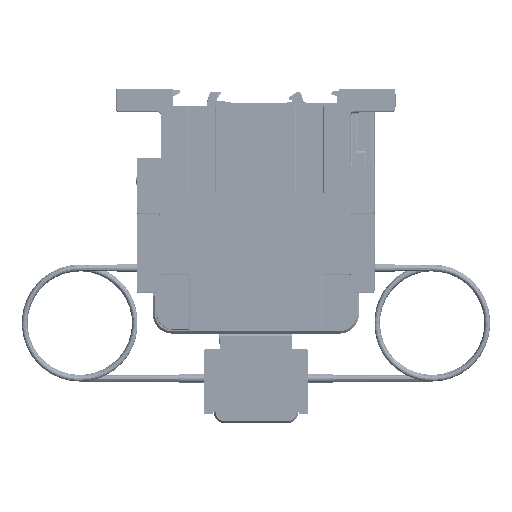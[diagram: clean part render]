
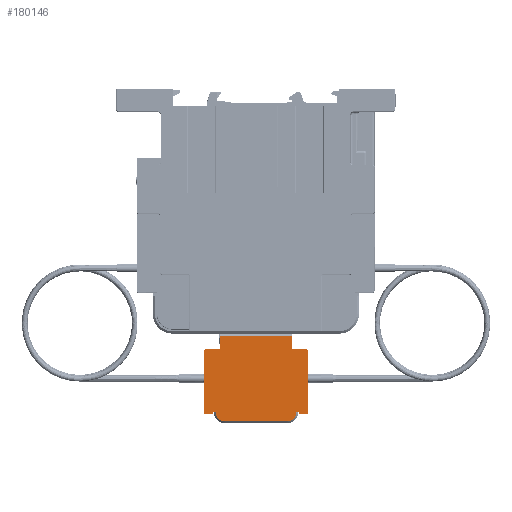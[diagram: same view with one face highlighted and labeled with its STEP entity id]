
A CAD part, left-side view. The second image highlights one B-rep face of the part: STEP entity #180146.
In plain terms, the highlighted planar face has unit normal (-1, 0, 0).
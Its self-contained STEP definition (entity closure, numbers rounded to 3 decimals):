
#558=DIRECTION('',(0.,-1.,0.));
#559=VECTOR('',#558,1.1);
#560=CARTESIAN_POINT('',(20.4,44.65,-146.5));
#561=LINE('',#560,#559);
#562=CARTESIAN_POINT('',(20.4,49.1,-146.5));
#563=DIRECTION('',(-1.,0.,0.));
#564=DIRECTION('',(0.,0.,-1.));
#565=AXIS2_PLACEMENT_3D('',#562,#563,#564);
#567=DIRECTION('',(0.,-1.,0.));
#568=VECTOR('',#567,27.9);
#569=CARTESIAN_POINT('',(20.4,77.,-150.95));
#570=LINE('',#569,#568);
#571=CARTESIAN_POINT('',(20.4,77.,-146.5));
#572=DIRECTION('',(-1.,0.,0.));
#573=DIRECTION('',(0.,1.,0.));
#574=AXIS2_PLACEMENT_3D('',#571,#572,#573);
#576=DIRECTION('',(0.,-1.,0.));
#577=VECTOR('',#576,1.1);
#578=CARTESIAN_POINT('',(20.4,82.55,-146.5));
#579=LINE('',#578,#577);
#580=DIRECTION('',(0.,0.,1.));
#581=VECTOR('',#580,0.3);
#582=CARTESIAN_POINT('',(20.4,82.55,-146.8));
#583=LINE('',#582,#581);
#584=CARTESIAN_POINT('',(20.4,83.55,-146.8));
#585=DIRECTION('',(-1.,0.,0.));
#586=DIRECTION('',(0.,0.,-1.));
#587=AXIS2_PLACEMENT_3D('',#584,#585,#586);
#589=CARTESIAN_POINT('',(20.4,85.85,-146.8));
#590=DIRECTION('',(-1.,0.,0.));
#591=DIRECTION('',(0.,1.,0.));
#592=AXIS2_PLACEMENT_3D('',#589,#590,#591);
#594=CARTESIAN_POINT('',(20.4,85.85,-119.2));
#595=DIRECTION('',(-1.,0.,0.));
#596=DIRECTION('',(0.,0.,1.));
#597=AXIS2_PLACEMENT_3D('',#594,#595,#596);
#599=DIRECTION('',(0.,1.,0.));
#600=VECTOR('',#599,5.6);
#601=CARTESIAN_POINT('',(20.4,80.25,-118.2));
#602=LINE('',#601,#600);
#603=DIRECTION('',(0.,0.,-1.));
#604=VECTOR('',#603,5.);
#605=CARTESIAN_POINT('',(20.4,79.25,-112.2));
#606=LINE('',#605,#604);
#607=DIRECTION('',(0.,-1.,0.));
#608=VECTOR('',#607,32.4);
#609=CARTESIAN_POINT('',(20.4,79.25,-112.2));
#610=LINE('',#609,#608);
#611=DIRECTION('',(0.,0.,-1.));
#612=VECTOR('',#611,5.);
#613=CARTESIAN_POINT('',(20.4,46.85,-112.2));
#614=LINE('',#613,#612);
#615=DIRECTION('',(0.,1.,0.));
#616=VECTOR('',#615,5.6);
#617=CARTESIAN_POINT('',(20.4,40.25,-118.2));
#618=LINE('',#617,#616);
#619=CARTESIAN_POINT('',(20.4,40.25,-119.2));
#620=DIRECTION('',(-1.,0.,0.));
#621=DIRECTION('',(0.,-1.,0.));
#622=AXIS2_PLACEMENT_3D('',#619,#620,#621);
#624=DIRECTION('',(0.,0.,-1.));
#625=VECTOR('',#624,27.6);
#626=CARTESIAN_POINT('',(20.4,39.25,-119.2));
#627=LINE('',#626,#625);
#628=CARTESIAN_POINT('',(20.4,40.25,-146.8));
#629=DIRECTION('',(-1.,0.,0.));
#630=DIRECTION('',(0.,0.,-1.));
#631=AXIS2_PLACEMENT_3D('',#628,#629,#630);
#633=CARTESIAN_POINT('',(20.4,42.55,-146.8));
#634=DIRECTION('',(-1.,0.,0.));
#635=DIRECTION('',(0.,1.,0.));
#636=AXIS2_PLACEMENT_3D('',#633,#634,#635);
#638=DIRECTION('',(0.,0.,1.));
#639=VECTOR('',#638,0.3);
#640=CARTESIAN_POINT('',(20.4,43.55,-146.8));
#641=LINE('',#640,#639);
#712=DIRECTION('',(0.,1.,0.));
#713=VECTOR('',#712,2.3);
#714=CARTESIAN_POINT('',(20.4,40.25,-147.8));
#715=LINE('',#714,#713);
#792=CARTESIAN_POINT('',(20.4,45.85,-117.2));
#793=DIRECTION('',(1.,0.,0.));
#794=DIRECTION('',(0.,0.,-1.));
#795=AXIS2_PLACEMENT_3D('',#792,#793,#794);
#49318=CARTESIAN_POINT('',(20.4,80.25,-117.2));
#49319=DIRECTION('',(1.,0.,0.));
#49320=DIRECTION('',(0.,-1.,0.));
#49321=AXIS2_PLACEMENT_3D('',#49318,#49319,#49320);
#49345=DIRECTION('',(0.,0.,-1.));
#49346=VECTOR('',#49345,27.6);
#49347=CARTESIAN_POINT('',(20.4,86.85,-119.2));
#49348=LINE('',#49347,#49346);
#98319=DIRECTION('',(0.,1.,0.));
#98320=VECTOR('',#98319,2.3);
#98321=CARTESIAN_POINT('',(20.4,83.55,-147.8));
#98322=LINE('',#98321,#98320);
#168251=CARTESIAN_POINT('',(20.4,43.55,-146.5));
#168253=VERTEX_POINT('',#168251);
#168254=CARTESIAN_POINT('',(20.4,82.55,-146.5));
#168256=VERTEX_POINT('',#168254);
#169144=CARTESIAN_POINT('',(20.4,39.25,-119.2));
#169145=CARTESIAN_POINT('',(20.4,40.25,-118.2));
#169146=VERTEX_POINT('',#169144);
#169147=VERTEX_POINT('',#169145);
#169216=CARTESIAN_POINT('',(20.4,85.85,-118.2));
#169218=VERTEX_POINT('',#169216);
#169220=CARTESIAN_POINT('',(20.4,86.85,-119.2));
#169221=VERTEX_POINT('',#169220);
#169228=CARTESIAN_POINT('',(20.4,86.85,-146.8));
#169229=VERTEX_POINT('',#169228);
#169230=CARTESIAN_POINT('',(20.4,85.85,-147.8));
#169231=VERTEX_POINT('',#169230);
#169296=CARTESIAN_POINT('',(20.4,40.25,-147.8));
#169297=CARTESIAN_POINT('',(20.4,39.25,-146.8));
#169298=VERTEX_POINT('',#169296);
#169299=VERTEX_POINT('',#169297);
#169866=CARTESIAN_POINT('',(20.4,46.85,-112.2));
#169868=VERTEX_POINT('',#169866);
#169869=CARTESIAN_POINT('',(20.4,79.25,-112.2));
#169870=VERTEX_POINT('',#169869);
#169889=CARTESIAN_POINT('',(20.4,45.85,-118.2));
#169891=VERTEX_POINT('',#169889);
#169893=CARTESIAN_POINT('',(20.4,46.85,-117.2));
#169895=VERTEX_POINT('',#169893);
#169906=CARTESIAN_POINT('',(20.4,80.25,-118.2));
#169908=VERTEX_POINT('',#169906);
#169910=CARTESIAN_POINT('',(20.4,79.25,-117.2));
#169912=VERTEX_POINT('',#169910);
#169977=CARTESIAN_POINT('',(20.4,83.55,-147.8));
#169978=CARTESIAN_POINT('',(20.4,82.55,-146.8));
#169979=VERTEX_POINT('',#169977);
#169980=VERTEX_POINT('',#169978);
#169989=CARTESIAN_POINT('',(20.4,43.55,-146.8));
#169990=VERTEX_POINT('',#169989);
#169991=CARTESIAN_POINT('',(20.4,42.55,-147.8));
#169992=VERTEX_POINT('',#169991);
#179208=CARTESIAN_POINT('',(20.4,77.,-150.95));
#179209=CARTESIAN_POINT('',(20.4,49.1,-150.95));
#179210=VERTEX_POINT('',#179208);
#179211=VERTEX_POINT('',#179209);
#179604=CARTESIAN_POINT('',(20.4,44.65,-146.5));
#179605=VERTEX_POINT('',#179604);
#179606=CARTESIAN_POINT('',(20.4,81.45,-146.5));
#179607=VERTEX_POINT('',#179606);
#180092=CARTESIAN_POINT('',(20.4,39.25,-111.4));
#180093=DIRECTION('',(-1.,0.,0.));
#180094=DIRECTION('',(0.,1.,0.));
#180095=AXIS2_PLACEMENT_3D('',#180092,#180093,#180094);
#180096=PLANE('',#180095);
#180098=ORIENTED_EDGE('',*,*,#180097,.F.);
#180100=ORIENTED_EDGE('',*,*,#180099,.F.);
#180101=ORIENTED_EDGE('',*,*,#180082,.F.);
#180103=ORIENTED_EDGE('',*,*,#180102,.F.);
#180105=ORIENTED_EDGE('',*,*,#180104,.F.);
#180107=ORIENTED_EDGE('',*,*,#180106,.F.);
#180109=ORIENTED_EDGE('',*,*,#180108,.F.);
#180111=ORIENTED_EDGE('',*,*,#180110,.T.);
#180113=ORIENTED_EDGE('',*,*,#180112,.F.);
#180115=ORIENTED_EDGE('',*,*,#180114,.F.);
#180117=ORIENTED_EDGE('',*,*,#180116,.F.);
#180119=ORIENTED_EDGE('',*,*,#180118,.F.);
#180121=ORIENTED_EDGE('',*,*,#180120,.F.);
#180123=ORIENTED_EDGE('',*,*,#180122,.F.);
#180125=ORIENTED_EDGE('',*,*,#180124,.T.);
#180127=ORIENTED_EDGE('',*,*,#180126,.T.);
#180129=ORIENTED_EDGE('',*,*,#180128,.F.);
#180131=ORIENTED_EDGE('',*,*,#180130,.F.);
#180133=ORIENTED_EDGE('',*,*,#180132,.F.);
#180135=ORIENTED_EDGE('',*,*,#180134,.T.);
#180137=ORIENTED_EDGE('',*,*,#180136,.F.);
#180139=ORIENTED_EDGE('',*,*,#180138,.T.);
#180141=ORIENTED_EDGE('',*,*,#180140,.F.);
#180143=ORIENTED_EDGE('',*,*,#180142,.T.);
#180144=EDGE_LOOP('',(#180098,#180100,#180101,#180103,#180105,#180107,#180109,
#180111,#180113,#180115,#180117,#180119,#180121,#180123,#180125,#180127,#180129,
#180131,#180133,#180135,#180137,#180139,#180141,#180143));
#180145=FACE_OUTER_BOUND('',#180144,.F.);
#180146=ADVANCED_FACE('',(#180145),#180096,.T.);
#566=CIRCLE('',#565,4.45);
#575=CIRCLE('',#574,4.45);
#588=CIRCLE('',#587,1.);
#593=CIRCLE('',#592,1.);
#598=CIRCLE('',#597,1.);
#623=CIRCLE('',#622,1.);
#632=CIRCLE('',#631,1.);
#637=CIRCLE('',#636,1.);
#796=CIRCLE('',#795,1.);
#49322=CIRCLE('',#49321,1.);
#180082=EDGE_CURVE('',#179210,#179211,#570,.T.);
#180097=EDGE_CURVE('',#179605,#168253,#561,.T.);
#180099=EDGE_CURVE('',#179211,#179605,#566,.T.);
#180102=EDGE_CURVE('',#179607,#179210,#575,.T.);
#180104=EDGE_CURVE('',#168256,#179607,#579,.T.);
#180106=EDGE_CURVE('',#169980,#168256,#583,.T.);
#180108=EDGE_CURVE('',#169979,#169980,#588,.T.);
#180110=EDGE_CURVE('',#169979,#169231,#98322,.T.);
#180112=EDGE_CURVE('',#169229,#169231,#593,.T.);
#180114=EDGE_CURVE('',#169221,#169229,#49348,.T.);
#180116=EDGE_CURVE('',#169218,#169221,#598,.T.);
#180118=EDGE_CURVE('',#169908,#169218,#602,.T.);
#180120=EDGE_CURVE('',#169912,#169908,#49322,.T.);
#180122=EDGE_CURVE('',#169870,#169912,#606,.T.);
#180124=EDGE_CURVE('',#169870,#169868,#610,.T.);
#180126=EDGE_CURVE('',#169868,#169895,#614,.T.);
#180128=EDGE_CURVE('',#169891,#169895,#796,.T.);
#180130=EDGE_CURVE('',#169147,#169891,#618,.T.);
#180132=EDGE_CURVE('',#169146,#169147,#623,.T.);
#180134=EDGE_CURVE('',#169146,#169299,#627,.T.);
#180136=EDGE_CURVE('',#169298,#169299,#632,.T.);
#180138=EDGE_CURVE('',#169298,#169992,#715,.T.);
#180140=EDGE_CURVE('',#169990,#169992,#637,.T.);
#180142=EDGE_CURVE('',#169990,#168253,#641,.T.);
